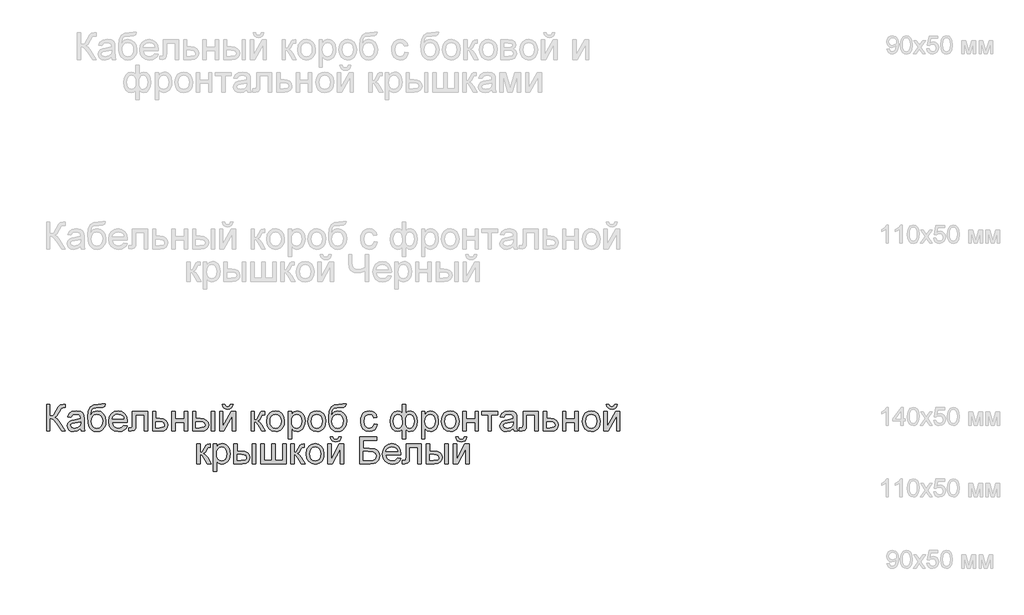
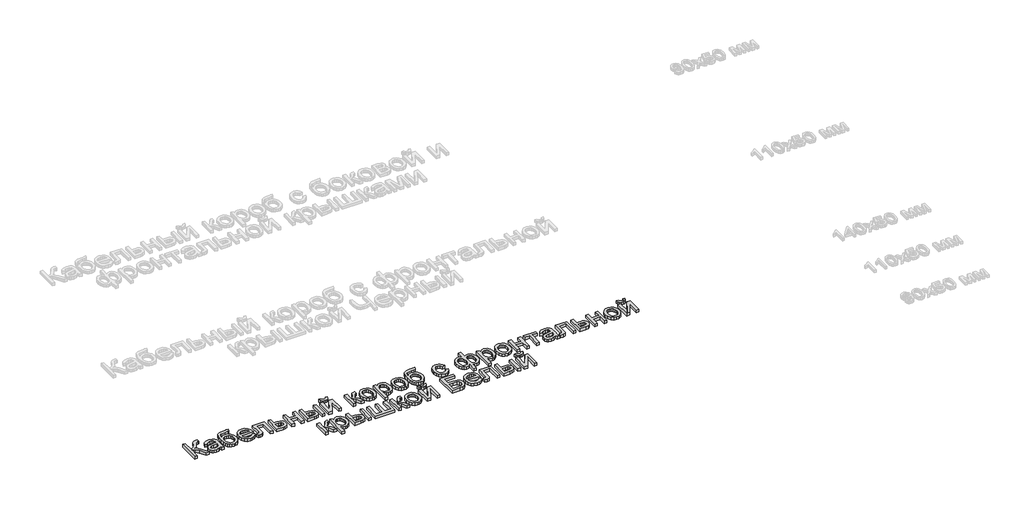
# One storey, part 25 of 48: 1 proxy.
"""IFC4 building model written with IfcOpenShell, lengths in millimetres."""

import ifcopenshell
import ifcopenshell.guid

model = None  # the IFC model being written
_history = None  # IfcOwnerHistory: only IFC2X3 demands one
_inside = {}  # id of a spatial element -> (the spatial element, [elements in it])
_under = {}  # id of a project, library or spatial element -> (it, [spatial elements below it])
_declared = {}  # id of a project -> (the project, [libraries it declares])
_typed = {}  # id of a type object -> (the type object, [elements of that type])
_made_of = {}  # id of a material, layer set ... -> (it, [elements and type objects made of it])


def new_model(schema):
    """Start an empty IFC model of exactly this schema.

    Asked for "IFC4X3", IfcOpenShell would pick the latest addendum, in which some entities
    have other attributes; the version numbers below select the first issue.
    IFC2X3 requires an IfcOwnerHistory on every rooted entity: one is made here for all.
    """
    global model, _history
    if schema == "IFC4X3":
        model = ifcopenshell.file(schema_version=(4, 3, 0, 0))
    else:
        model = ifcopenshell.file(schema=schema)
    _inside.clear()
    _under.clear()
    _declared.clear()
    _typed.clear()
    _made_of.clear()
    _history = None
    if model.schema == "IFC2X3":
        org = make("IfcOrganization", Name="unknown")
        user = make(
            "IfcPersonAndOrganization",
            ThePerson=make("IfcPerson", FamilyName="unknown"),
            TheOrganization=org,
        )
        app = make(
            "IfcApplication",
            ApplicationDeveloper=org,
            Version="unknown",
            ApplicationFullName="unknown",
            ApplicationIdentifier="unknown",
        )
        _history = make(
            "IfcOwnerHistory",
            OwningUser=user,
            OwningApplication=app,
            ChangeAction="ADDED",
            CreationDate=0,
        )
    return model


def make(cls, **values):
    """One entity of the class cls with the attributes given. An attribute that is None is left unset."""
    return model.create_entity(
        cls, **{name: value for name, value in values.items() if value is not None}
    )


def rooted(cls, **values):
    """An entity with a GlobalId (a new one), such as an element, a storey or a relation."""
    return make(cls, GlobalId=ifcopenshell.guid.new(), OwnerHistory=_history, **values)


def si_unit(unit_type, name, prefix=None):
    """IfcSIUnit, for example si_unit("LENGTHUNIT", "METRE", prefix="MILLI")."""
    return make("IfcSIUnit", UnitType=unit_type, Prefix=prefix, Name=name)


def assignment(units):
    """IfcUnitAssignment: the units of a project."""
    return None if units is None else make("IfcUnitAssignment", Units=units)


def point(xyz):
    """IfcCartesianPoint."""
    return None if xyz is None else make("IfcCartesianPoint", Coordinates=xyz)


def direction(xyz):
    """IfcDirection."""
    return None if xyz is None else make("IfcDirection", DirectionRatios=xyz)


def frame(location, z_axis=None, x_axis=None):
    """IfcAxis2Placement3D, a coordinate frame: its origin and axes. An axis left out is left unset."""
    return make(
        "IfcAxis2Placement3D",
        Location=point(location),
        Axis=direction(z_axis),
        RefDirection=direction(x_axis),
    )


def origin():
    """The frame at (0, 0, 0) with its axes left unset."""
    return frame((0.0, 0.0, 0.0))


def origin_with_axes():
    """The frame at (0, 0, 0) with the z axis (0, 0, 1) and the x axis (1, 0, 0) written out."""
    return frame((0.0, 0.0, 0.0), z_axis=(0.0, 0.0, 1.0), x_axis=(1.0, 0.0, 0.0))


def place(relative_to, where):
    """IfcLocalPlacement: puts the frame where relative to a parent placement (None: the world)."""
    return make(
        "IfcLocalPlacement", PlacementRelTo=relative_to, RelativePlacement=where
    )


def context(
    kind, dimensions, precision=None, world=None, true_north=None, identifier=None
):
    """IfcGeometricRepresentationContext, for example the 3D "Model" context."""
    return make(
        "IfcGeometricRepresentationContext",
        ContextIdentifier=identifier,
        ContextType=kind,
        CoordinateSpaceDimension=dimensions,
        Precision=precision,
        WorldCoordinateSystem=world,
        TrueNorth=true_north,
    )


def project(units=None, contexts=None):
    """IfcProject with its units and contexts."""
    return rooted(
        "IfcProject",
        Name="project",
        RepresentationContexts=contexts,
        UnitsInContext=assignment(units),
    )


def spatial(cls, under=None, at=None, **own):
    """A site, building, storey or space (cls), placed at a placement, below another one or the project."""
    s = rooted(cls, ObjectPlacement=at, **own)
    if under is not None:
        _under.setdefault(under.id(), (under, []))[1].append(s)
    return s


def polyline(points):
    """IfcPolyline through the points."""
    return make("IfcPolyline", Points=[point(p) for p in points])


def outline(outer, holes=None, kind="AREA"):
    """IfcArbitraryClosedProfileDef: a profile drawn as a closed curve; with holes, ...WithVoids."""
    if holes is None:
        return make("IfcArbitraryClosedProfileDef", ProfileType=kind, OuterCurve=outer)
    return make(
        "IfcArbitraryProfileDefWithVoids",
        ProfileType=kind,
        OuterCurve=outer,
        InnerCurves=holes,
    )


def extrude(swept, where, along, depth):
    """IfcExtrudedAreaSolid: the profile swept, set in the frame where, extruded along a direction by depth."""
    return make(
        "IfcExtrudedAreaSolid",
        SweptArea=swept,
        Position=where,
        ExtrudedDirection=direction(along),
        Depth=depth,
    )


def shape(context_of_items, identifier, shape_type, items):
    """IfcShapeRepresentation: the items that make up one representation, for example the "Body"."""
    return make(
        "IfcShapeRepresentation",
        ContextOfItems=context_of_items,
        RepresentationIdentifier=identifier,
        RepresentationType=shape_type,
        Items=items,
    )


def made_of(thing, what):
    """Note that an element or type object is made of a material, layer set ...; save() writes the relation."""
    if what is not None:
        _made_of.setdefault(what.id(), (what, []))[1].append(thing)
    return thing


def element(
    cls,
    number,
    at=None,
    inside=None,
    cuts=None,
    type_object=None,
    material=None,
    context=None,
    identifier="Body",
    shape_type=None,
    held_by="IfcProductDefinitionShape",
    body=None,
    shapes=None,
    **own,
):
    """One element of the class cls, such as IfcWall. Its Tag is "e" and its number.

    at: its placement. inside: the storey or other place that contains it. cuts: it is an
    opening in that element (IfcRelVoidsElement). A single representation is given by context,
    identifier, shape_type and body (its items); several are given by shapes. held_by: the class
    of the entity that holds the representations. save() writes the other relations.
    """
    e = rooted(cls, Tag="e%d" % number, ObjectPlacement=at, **own)
    if body is not None:
        shapes = [shape(context, identifier, shape_type, body)]
    if shapes is not None:
        e.Representation = make(held_by, Representations=shapes)
    if inside is not None:
        _inside.setdefault(inside.id(), (inside, []))[1].append(e)
    if cuts is not None:
        rooted(
            "IfcRelVoidsElement", RelatingBuildingElement=cuts, RelatedOpeningElement=e
        )
    if type_object is not None:
        _typed.setdefault(type_object.id(), (type_object, []))[1].append(e)
    return made_of(e, material)


def aggregate(whole, parts):
    """IfcRelAggregates: a whole, such as a stair, and the parts it consists of."""
    return rooted("IfcRelAggregates", RelatingObject=whole, RelatedObjects=parts)


def save(model, path):
    """Write the relations noted so far, then the file.

    IfcRelAggregates (storeys below a building ...), IfcRelContainedInSpatialStructure (elements
    in a storey), IfcRelDefinesByType, IfcRelAssociatesMaterial and IfcRelDeclares: one each for
    every whole, place, type object, material and project.
    """
    for whole, parts in _under.values():
        aggregate(whole, parts)
    for where, things in _inside.values():
        rooted(
            "IfcRelContainedInSpatialStructure",
            RelatedElements=things,
            RelatingStructure=where,
        )
    for kind, things in _typed.values():
        rooted("IfcRelDefinesByType", RelatedObjects=things, RelatingType=kind)
    for what, things in _made_of.values():
        rooted("IfcRelAssociatesMaterial", RelatedObjects=things, RelatingMaterial=what)
    for by, libraries in _declared.values():
        rooted("IfcRelDeclares", RelatingContext=by, RelatedDefinitions=libraries)
    model.write(path)


model = new_model("IFC4")

# Units and contexts
model_context = context("Model", 3, world=origin())
ifc_project = project(units=[si_unit("LENGTHUNIT", "METRE", prefix="MILLI")], contexts=[model_context])

# Site, building, storey
site = spatial("IfcSite", under=ifc_project)
building = spatial("IfcBuilding", under=site)
storey = spatial("IfcBuildingStorey", under=building, Name="Этаж 01", Elevation=0.0)

# Proxy
placement = place(None, origin())
element("IfcBuildingElementProxy", 1, Name="150 мм Arial", ObjectType="150 мм Arial", at=placement, inside=storey, context=model_context, shape_type="SweptSolid", body=[
    extrude(outline(polyline([(-4561.0026939, 1444.5958673), (-4542.1671357, 1444.5958673), (-4542.1671357, 1378.6714138), (-4529.415426, 1379.917614), (-4521.1058915, 1383.6562148), (-4506.4090058, 1408.8745256), (-4496.0163394, 1429.9357698), (-4484.2441156, 1440.3652244), (-4467.4135143, 1444.5958673), (-4455.0526792, 1444.3751381), (-4455.0526792, 1425.53958), (-4459.2097458, 1425.6499446), (-4463.3668123, 1425.7603092), (-4478.0820921, 1421.2353606), (-4489.2657048, 1401.8479795), (-4502.6014271, 1378.2299554), (-4515.6060557, 1370.4308571), (-4501.0655198, 1361.9143889), (-4486.727319, 1344.1640826), (-4455.0526792, 1293.9114021), (-4476.9048698, 1293.9114021), (-4503.686679, 1336.3649843), (-4522.5406313, 1358.5298745), (-4531.245639, 1363.0410275), (-4542.1671357, 1364.5447452), (-4542.1671357, 1293.9114021), (-4561.0026939, 1293.9114021), (-4561.0026939, 1444.5958673)])), origin_with_axes(), (0.0, 0.0, 1.0), 20.0),
    extrude(outline(polyline([(-4370.2926676, 1308.0380707), (-4388.5580086, 1295.2725655), (-4408.7363361, 1291.5569573), (-4424.4770869, 1293.7918404), (-4436.0883624, 1300.4964898), (-4443.2482657, 1310.677624), (-4445.6349002, 1323.3419617), (-4442.0296566, 1338.2411825), (-4432.5566952, 1349.0569132), (-4419.3681257, 1355.2373307), (-4403.0709533, 1358.0700221), (-4370.4030322, 1364.5447452), (-4370.2926676, 1368.7385999), (-4371.5894516, 1377.1447035), (-4375.4798037, 1382.6445393), (-4384.1802129, 1386.7280295), (-4396.3019246, 1388.0891929), (-4415.358212, 1384.4655552), (-4424.4448972, 1371.6080795), (-4443.2804554, 1373.9625242), (-4435.1318692, 1392.356624), (-4418.7243322, 1403.1355665), (-4393.8739034, 1406.924751), (-4371.0468256, 1403.5770249), (-4358.1525617, 1395.1709213), (-4352.3768144, 1382.3870219), (-4351.4571094, 1365.9059086), (-4351.4571094, 1342.4718255), (-4350.5006162, 1309.748722), (-4346.7482199, 1293.9114021), (-4365.583778, 1293.9114021), (-4370.2926676, 1308.0380707)]), holes=[polyline([(-4370.2926676, 1345.709187), (-4400.6797204, 1339.9334397), (-4416.8849222, 1336.8800191), (-4424.2241681, 1331.9136122), (-4426.799342, 1324.6663369), (-4421.1891416, 1314.4760056), (-4404.7264223, 1310.3925155), (-4385.670135, 1314.8990699), (-4373.3828763, 1325.8067711), (-4370.4030322, 1340.3748981), (-4370.2926676, 1345.709187)])]), origin_with_axes(), (0.0, 0.0, 1.0), 20.0),
    extrude(outline(polyline([(-4247.8615396, 1446.9503121), (-4231.3804262, 1446.9503121), (-4236.2364685, 1432.2534264), (-4245.8381886, 1426.9375316), (-4268.9043897, 1425.7603092), (-4299.9720242, 1421.4193016), (-4307.0997378, 1415.772313), (-4311.8914008, 1407.5133622), (-4315.9197087, 1382.9020567), (-4299.6041422, 1400.9282745), (-4289.6851239, 1405.4256319), (-4278.5796862, 1406.924751), (-4258.9807729, 1403.1125738), (-4243.0790736, 1391.6760423), (-4232.5392545, 1373.7371965), (-4229.0259814, 1350.4180766), (-4230.7688224, 1332.437844), (-4235.9973452, 1318.0076728), (-4252.5336409, 1298.4547447), (-4263.8276182, 1293.2814042), (-4278.5796862, 1291.5569573), (-4295.5804329, 1293.7780449), (-4308.3229455, 1300.4413075), (-4317.6993378, 1310.5672594), (-4324.6017238, 1323.1764148), (-4328.8507608, 1342.1637243), (-4330.2671065, 1371.4241385), (-4326.6940526, 1407.563946), (-4315.974891, 1429.604676), (-4297.8429071, 1440.8480695), (-4272.0313866, 1444.5958673), (-4251.0621129, 1445.0189316), (-4247.8615396, 1446.9503121)]), holes=[polyline([(-4247.8615396, 1351.0066877), (-4249.9032846, 1365.8277336), (-4256.0285199, 1377.6965265), (-4265.8693632, 1385.4910263), (-4279.0579328, 1388.0891929), (-4292.8075223, 1385.3438735), (-4303.0070506, 1377.1079153), (-4309.3254239, 1364.2826292), (-4311.4315483, 1347.7693262), (-4309.1046947, 1331.7618609), (-4302.1241339, 1320.0126297), (-4291.7314675, 1312.797544), (-4279.1682974, 1310.3925155), (-4266.5407479, 1313.1746231), (-4256.5435547, 1321.5209458), (-4250.0320433, 1334.4565965), (-4247.8615396, 1351.0066877)])]), origin_with_axes(), (0.0, 0.0, 1.0), 20.0),
    extrude(outline(polyline([(-4128.0055855, 1326.8736289), (-4109.5379094, 1324.5191841), (-4116.191975, 1310.6040476), (-4126.8099691, 1300.2021842), (-4141.1527683, 1293.718264), (-4158.9812495, 1291.5569573), (-4181.0817604, 1295.2863611), (-4198.0871056, 1306.4745722), (-4208.9304274, 1324.3950239), (-4212.544868, 1348.3211492), (-4208.8936392, 1373.0520163), (-4197.9399528, 1391.5472836), (-4181.1645338, 1403.0803842), (-4160.0481073, 1406.924751), (-4139.5892699, 1403.0895812), (-4123.2415137, 1391.5840718), (-4112.5223521, 1373.1255927), (-4108.9492982, 1348.4315138), (-4109.0596628, 1343.3547422), (-4193.7093099, 1343.3547422), (-4190.4489557, 1329.2556648), (-4182.8751851, 1318.8905896), (-4171.9444913, 1312.517034), (-4158.6133675, 1310.3925155), (-4140.1456914, 1314.3288528), (-4128.0055855, 1326.8736289)]), holes=[polyline([(-4193.7093099, 1362.1903004), (-4127.7848563, 1362.1903004), (-4130.3324392, 1372.1415084), (-4135.3264372, 1379.260025), (-4146.3077148, 1385.8819009), (-4160.1216837, 1388.0891929), (-4172.8182111, 1386.3279578), (-4183.3166435, 1381.0442527), (-4190.6145026, 1372.8082945), (-4193.7093099, 1362.1903004)])]), origin_with_axes(), (0.0, 0.0, 1.0), 20.0),
    extrude(outline(polyline([(-4080.695961, 1404.5703062), (-3995.9359493, 1404.5703062), (-3995.9359493, 1294.0217667), (-4014.7715074, 1294.0217667), (-4014.7715074, 1385.7347481), (-4061.8604028, 1385.7347481), (-4061.8604028, 1332.9436818), (-4063.1295957, 1308.5898937), (-4070.1009595, 1298.3075919), (-4086.5820729, 1293.9114021), (-4101.8859639, 1294.8678953), (-4101.8859639, 1312.7469602), (-4093.4614662, 1312.7469602), (-4084.944998, 1313.9057885), (-4081.5420895, 1317.5846085), (-4080.695961, 1334.0105396), (-4080.695961, 1404.5703062)])), origin_with_axes(), (0.0, 0.0, 1.0), 20.0),
    extrude(outline(polyline([(-3967.682612, 1404.5703062), (-3948.8470539, 1404.5703062), (-3948.8470539, 1364.5447452), (-3927.1420162, 1364.5447452), (-3908.3248521, 1362.1857019), (-3894.4005186, 1355.108572), (-3885.7920799, 1343.8835726), (-3882.9226003, 1329.0809208), (-3885.3644171, 1315.6026442), (-3892.6898673, 1304.2304921), (-3905.3863947, 1296.4911746), (-3923.9414428, 1293.9114021), (-3967.682612, 1293.9114021), (-3967.682612, 1404.5703062)]), holes=[polyline([(-3948.8470539, 1312.7469602), (-3931.2622945, 1312.7469602), (-3908.5455813, 1316.7016917), (-3903.4550142, 1321.7646677), (-3901.7581585, 1329.0441326), (-3906.7797477, 1340.6324155), (-3914.850159, 1344.4399941), (-3929.0182143, 1345.709187), (-3948.8470539, 1345.709187), (-3948.8470539, 1312.7469602)])]), origin_with_axes(), (0.0, 0.0, 1.0), 20.0),
    extrude(outline(polyline([(-3859.3781527, 1404.5703062), (-3840.5425945, 1404.5703062), (-3840.5425945, 1362.1903004), (-3791.0992544, 1362.1903004), (-3791.0992544, 1404.5703062), (-3772.2636962, 1404.5703062), (-3772.2636962, 1293.9114021), (-3791.0992544, 1293.9114021), (-3791.0992544, 1343.3547422), (-3840.5425945, 1343.3547422), (-3840.5425945, 1293.9114021), (-3859.3781527, 1293.9114021), (-3859.3781527, 1404.5703062)])), origin_with_axes(), (0.0, 0.0, 1.0), 20.0),
    extrude(outline(polyline([(-3640.4147891, 1404.5703062), (-3621.579231, 1404.5703062), (-3621.579231, 1293.9114021), (-3640.4147891, 1293.9114021), (-3640.4147891, 1404.5703062)])), origin_with_axes(), (0.0, 0.0, 1.0), 20.0),
    extrude(outline(polyline([(-3744.010359, 1404.5703062), (-3725.1748008, 1404.5703062), (-3725.1748008, 1364.5447452), (-3701.8878705, 1364.5447452), (-3681.7601269, 1362.1857019), (-3666.8471105, 1355.108572), (-3657.6178709, 1343.8835726), (-3654.5414577, 1329.0809208), (-3657.1212302, 1315.6026442), (-3664.8605477, 1304.2304921), (-3678.2652479, 1296.4911746), (-3697.8411686, 1293.9114021), (-3744.010359, 1293.9114021), (-3744.010359, 1404.5703062)]), holes=[polyline([(-3725.1748008, 1312.7469602), (-3705.8242079, 1312.7469602), (-3680.8450204, 1316.7016917), (-3675.244017, 1321.7646677), (-3673.3770159, 1329.0441326), (-3678.9136399, 1340.6324155), (-3687.7933916, 1344.4399941), (-3703.3593985, 1345.709187), (-3725.1748008, 1345.709187), (-3725.1748008, 1312.7469602)])]), origin_with_axes(), (0.0, 0.0, 1.0), 20.0),
    extrude(outline(polyline([(-3532.1103297, 1444.5958673), (-3517.9836611, 1444.5958673), (-3521.0232861, 1432.5339364), (-3527.1255287, 1423.6449877), (-3536.0144774, 1418.1681445), (-3547.4142207, 1416.3425301), (-3559.7842528, 1418.1543489), (-3569.3767759, 1423.5898054), (-3575.9342724, 1432.4649585), (-3579.1992251, 1444.5958673), (-3565.0725565, 1444.5958673), (-3559.7750558, 1433.9824718), (-3549.1064779, 1430.4691987), (-3537.4078305, 1433.8721072), (-3532.1103297, 1444.5958673)])), origin_with_axes(), (0.0, 0.0, 1.0), 20.0),
    extrude(outline(polyline([(-3593.3258937, 1404.5703062), (-3574.4903356, 1404.5703062), (-3574.4903356, 1320.1781766), (-3528.2107806, 1404.5703062), (-3503.8569925, 1404.5703062), (-3503.8569925, 1293.9114021), (-3522.6925507, 1293.9114021), (-3522.6925507, 1377.788497), (-3568.6778001, 1293.9114021), (-3593.3258937, 1293.9114021), (-3593.3258937, 1404.5703062)])), origin_with_axes(), (0.0, 0.0, 1.0), 20.0),
    extrude(outline(polyline([(-3416.7425361, 1404.5703062), (-3397.9069779, 1404.5703062), (-3397.9069779, 1357.4814109), (-3385.2886255, 1360.8659252), (-3374.9511414, 1380.5844002), (-3366.3610968, 1397.5989424), (-3358.7827277, 1403.1355665), (-3345.005547, 1404.5703062), (-3341.4003034, 1404.5703062), (-3341.4003034, 1385.6243835), (-3346.477075, 1385.7347481), (-3355.6741249, 1383.7481853), (-3362.148848, 1371.3505621), (-3369.7456112, 1357.9412634), (-3380.3957949, 1351.3745697), (-3368.5132065, 1344.044521), (-3356.8513472, 1328.6026742), (-3336.6914139, 1293.9114021), (-3358.102146, 1293.9114021), (-3377.8574092, 1327.8669103), (-3387.790223, 1342.2327022), (-3397.9069779, 1345.709187), (-3397.9069779, 1293.9114021), (-3416.7425361, 1293.9114021), (-3416.7425361, 1404.5703062)])), origin_with_axes(), (0.0, 0.0, 1.0), 20.0),
    extrude(outline(polyline([(-3329.6280796, 1349.2408542), (-3325.5537865, 1375.9214959), (-3313.3309072, 1394.6742806), (-3298.2293513, 1403.8621334), (-3280.1479513, 1406.924751), (-3260.3604984, 1403.1953473), (-3244.5553682, 1392.0071361), (-3234.1948915, 1374.2430343), (-3230.7413993, 1350.7859586), (-3232.2681096, 1331.7572624), (-3236.8482404, 1317.2719088), (-3244.3484346, 1306.4239885), (-3254.6353349, 1298.3075919), (-3266.8536157, 1293.244616), (-3280.1479513, 1291.5569573), (-3300.1745274, 1295.2725655), (-3315.9612635, 1306.4193899), (-3326.2113756, 1324.5559723), (-3329.6280796, 1349.2408542)]), holes=[polyline([(-3310.7925214, 1349.2776424), (-3308.6128206, 1332.2309104), (-3302.0737182, 1320.0862061), (-3292.2328748, 1312.8159381), (-3280.1479513, 1310.3925155), (-3268.11821, 1312.8297337), (-3258.2957607, 1320.1413884), (-3251.7566583, 1332.4470411), (-3249.5769575, 1349.8662536), (-3251.7704538, 1366.4163448), (-3258.350943, 1378.3955023), (-3268.1871879, 1385.6657702), (-3280.1479513, 1388.0891929), (-3292.2328748, 1385.6749673), (-3302.0737182, 1378.4322905), (-3308.6128206, 1366.3151773), (-3310.7925214, 1349.2776424)])]), origin_with_axes(), (0.0, 0.0, 1.0), 20.0),
    extrude(outline(polyline([(-3209.5513964, 1251.5313963), (-3209.5513964, 1404.5703062), (-3190.7158382, 1404.5703062), (-3190.7158382, 1386.1026301), (-3177.6928156, 1401.7192208), (-3160.1080562, 1406.924751), (-3147.3701421, 1405.1037351), (-3136.2325147, 1399.6406875), (-3127.1642236, 1390.8667019), (-3120.6343181, 1379.1128722), (-3115.3736056, 1350.0869828), (-3116.8589292, 1333.9783499), (-3121.3148998, 1319.5711713), (-3128.5989633, 1307.5966123), (-3138.5685654, 1298.7858385), (-3150.1798409, 1293.3641776), (-3162.3889246, 1291.5569573), (-3178.7780675, 1296.3946056), (-3190.7158382, 1308.6266819), (-3190.7158382, 1251.5313963), (-3209.5513964, 1251.5313963)]), holes=[polyline([(-3190.7158382, 1348.3579374), (-3188.6786917, 1331.4721538), (-3182.567252, 1319.6631418), (-3173.5495446, 1312.710172), (-3162.7935948, 1310.3925155), (-3151.862901, 1312.7929455), (-3142.6152674, 1319.9942356), (-3136.3106897, 1332.2355089), (-3134.2091638, 1349.755889), (-3136.2601059, 1366.549702), (-3142.4129323, 1378.524261), (-3151.4168441, 1385.6979599), (-3162.0210426, 1388.0891929), (-3172.6666278, 1385.5462086), (-3182.015429, 1377.9172557), (-3188.5407359, 1365.4414575), (-3190.7158382, 1348.3579374)])]), origin_with_axes(), (0.0, 0.0, 1.0), 20.0),
    extrude(outline(polyline([(-3098.8924922, 1349.2408542), (-3094.8181991, 1375.9214959), (-3082.5953198, 1394.6742806), (-3067.4937639, 1403.8621334), (-3049.4123639, 1406.924751), (-3029.6249111, 1403.1953473), (-3013.8197808, 1392.0071361), (-3003.4593042, 1374.2430343), (-3000.0058119, 1350.7859586), (-3001.5325222, 1331.7572624), (-3006.112653, 1317.2719088), (-3013.6128472, 1306.4239885), (-3023.8997475, 1298.3075919), (-3036.1180283, 1293.244616), (-3049.4123639, 1291.5569573), (-3069.43894, 1295.2725655), (-3085.2256761, 1306.4193899), (-3095.4757882, 1324.5559723), (-3098.8924922, 1349.2408542)]), holes=[polyline([(-3080.0569341, 1349.2776424), (-3077.8772333, 1332.2309104), (-3071.3381308, 1320.0862061), (-3061.4972874, 1312.8159381), (-3049.4123639, 1310.3925155), (-3037.3826226, 1312.8297337), (-3027.5601734, 1320.1413884), (-3021.0210709, 1332.4470411), (-3018.8413701, 1349.8662536), (-3021.0348665, 1366.4163448), (-3027.6153557, 1378.3955023), (-3037.4516005, 1385.6657702), (-3049.4123639, 1388.0891929), (-3061.4972874, 1385.6749673), (-3071.3381308, 1378.4322905), (-3077.8772333, 1366.3151773), (-3080.0569341, 1349.2776424)])]), origin_with_axes(), (0.0, 0.0, 1.0), 20.0),
    extrude(outline(polyline([(-2901.1191316, 1446.9503121), (-2884.6380182, 1446.9503121), (-2889.4940606, 1432.2534264), (-2899.0957806, 1426.9375316), (-2922.1619817, 1425.7603092), (-2953.2296162, 1421.4193016), (-2960.3573299, 1415.772313), (-2965.1489929, 1407.5133622), (-2969.1773007, 1382.9020567), (-2952.8617342, 1400.9282745), (-2942.9427159, 1405.4256319), (-2931.8372782, 1406.924751), (-2912.2383649, 1403.1125738), (-2896.3366657, 1391.6760423), (-2885.7968465, 1373.7371965), (-2882.2835735, 1350.4180766), (-2884.0264144, 1332.437844), (-2889.2549373, 1318.0076728), (-2905.791233, 1298.4547447), (-2917.0852102, 1293.2814042), (-2931.8372782, 1291.5569573), (-2948.8380249, 1293.7780449), (-2961.5805375, 1300.4413075), (-2970.9569299, 1310.5672594), (-2977.8593158, 1323.1764148), (-2982.1083529, 1342.1637243), (-2983.5246985, 1371.4241385), (-2979.9516447, 1407.563946), (-2969.232483, 1429.604676), (-2951.1004992, 1440.8480695), (-2925.2889787, 1444.5958673), (-2904.319705, 1445.0189316), (-2901.1191316, 1446.9503121)]), holes=[polyline([(-2901.1191316, 1351.0066877), (-2903.1608767, 1365.8277336), (-2909.2861119, 1377.6965265), (-2919.1269553, 1385.4910263), (-2932.3155248, 1388.0891929), (-2946.0651144, 1385.3438735), (-2956.2646427, 1377.1079153), (-2962.583016, 1364.2826292), (-2964.6891404, 1347.7693262), (-2962.3622868, 1331.7618609), (-2955.3817259, 1320.0126297), (-2944.9890595, 1312.797544), (-2932.4258894, 1310.3925155), (-2919.7983399, 1313.1746231), (-2909.8011467, 1321.5209458), (-2903.2896354, 1334.4565965), (-2901.1191316, 1351.0066877)])]), origin_with_axes(), (0.0, 0.0, 1.0), 20.0),
    extrude(outline(polyline([(-2729.2446635, 1333.9369632), (-2710.4091053, 1331.5825184), (-2715.6606208, 1314.830092), (-2725.5290553, 1302.1703529), (-2739.0855068, 1294.2103062), (-2755.4010733, 1291.5569573), (-2775.4368465, 1295.2587699), (-2791.104021, 1306.3642076), (-2801.2161773, 1324.3858269), (-2804.5868961, 1348.836184), (-2803.1475578, 1365.5978074), (-2798.8295429, 1380.1245477), (-2791.5638735, 1391.8553848), (-2781.2815717, 1400.2292987), (-2768.9805175, 1405.2508879), (-2755.6585907, 1406.924751), (-2739.7430959, 1404.6254885), (-2727.0189774, 1397.7277011), (-2717.8909054, 1386.5992708), (-2712.7635501, 1371.6080795), (-2731.5991082, 1369.2536347), (-2740.3363056, 1383.3619092), (-2755.5114379, 1388.0891929), (-2767.6837334, 1385.7623392), (-2777.3452343, 1378.7817784), (-2783.649812, 1366.7704312), (-2785.7513379, 1349.3512188), (-2783.6957973, 1331.6974815), (-2777.5291753, 1319.6447477), (-2768.0424184, 1312.7055735), (-2756.0264727, 1310.3925155), (-2746.2730013, 1311.8364523), (-2738.2761665, 1316.1682628), (-2732.4590324, 1323.4983116), (-2729.2446635, 1333.9369632)])), origin_with_axes(), (0.0, 0.0, 1.0), 20.0),
    extrude(outline(polyline([(-2571.4968639, 1444.5958673), (-2552.6613058, 1444.5958673), (-2552.6613058, 1393.9385166), (-2540.6867468, 1403.7057836), (-2526.6520487, 1406.924751), (-2510.1663368, 1402.8320638), (-2497.4974006, 1390.5540022), (-2489.4269893, 1372.067932), (-2486.7368523, 1349.3512188), (-2489.633923, 1325.9401283), (-2498.3251351, 1307.5046418), (-2511.3205666, 1295.5438785), (-2527.1302953, 1291.5569573), (-2538.6450018, 1293.3963673), (-2552.6613058, 1303.4395458), (-2552.6613058, 1251.5313963), (-2571.4968639, 1251.5313963), (-2571.4968639, 1303.4395458), (-2583.5266052, 1294.5368015), (-2597.7636384, 1291.5569573), (-2613.545776, 1295.364536), (-2627.194198, 1306.7872719), (-2636.6303712, 1325.3009333), (-2639.7757622, 1350.3812884), (-2636.9292753, 1372.4634051), (-2628.3898145, 1390.6643668), (-2615.0402966, 1402.859655), (-2597.7636384, 1406.924751), (-2583.1771173, 1403.7057836), (-2571.4968639, 1393.9385166), (-2571.4968639, 1444.5958673)]), holes=[polyline([(-2620.9402041, 1350.7859586), (-2619.0548089, 1332.3090853), (-2613.3986232, 1319.8470828), (-2604.9465344, 1312.7561573), (-2594.6734296, 1310.3925155), (-2584.4509087, 1312.7423617), (-2577.1806408, 1319.7919005), (-2572.8350347, 1331.5411317), (-2571.3864993, 1347.9900554), (-2572.9086111, 1365.533428), (-2577.4749464, 1378.0644085), (-2585.1130963, 1385.5829968), (-2595.850652, 1388.0891929), (-2605.9306187, 1385.6427776), (-2613.9504462, 1378.3035318), (-2619.1927646, 1366.5313079), (-2620.9402041, 1350.7859586)]), polyline([(-2552.7716704, 1348.9097604), (-2551.2035734, 1329.8396775), (-2546.4992824, 1318.2467961), (-2539.4313495, 1312.3560856), (-2530.7723271, 1310.3925155), (-2521.0924321, 1312.8067411), (-2512.9484444, 1320.0494179), (-2507.4164189, 1332.3780632), (-2505.5724104, 1350.0501946), (-2507.2738646, 1366.8072194), (-2512.3782273, 1378.6714138), (-2520.1497345, 1385.7347481), (-2529.8526221, 1388.0891929), (-2539.8452168, 1385.6381791), (-2547.0143172, 1378.2851377), (-2551.3323321, 1366.0392658), (-2552.7716704, 1348.9097604)])]), origin_with_axes(), (0.0, 0.0, 1.0), 20.0),
    extrude(outline(polyline([(-2463.1924046, 1251.5313963), (-2463.1924046, 1404.5703062), (-2444.3568464, 1404.5703062), (-2444.3568464, 1386.1026301), (-2431.3338238, 1401.7192208), (-2413.7490644, 1406.924751), (-2401.0111503, 1405.1037351), (-2389.8735229, 1399.6406875), (-2380.8052317, 1390.8667019), (-2374.2753263, 1379.1128722), (-2369.0146138, 1350.0869828), (-2370.4999374, 1333.9783499), (-2374.955908, 1319.5711713), (-2382.2399715, 1307.5966123), (-2392.2095736, 1298.7858385), (-2403.8208491, 1293.3641776), (-2416.0299328, 1291.5569573), (-2432.4190757, 1296.3946056), (-2444.3568464, 1308.6266819), (-2444.3568464, 1251.5313963), (-2463.1924046, 1251.5313963)]), holes=[polyline([(-2444.3568464, 1348.3579374), (-2442.3196999, 1331.4721538), (-2436.2082602, 1319.6631418), (-2427.1905528, 1312.710172), (-2416.434603, 1310.3925155), (-2405.5039092, 1312.7929455), (-2396.2562755, 1319.9942356), (-2389.9516978, 1332.2355089), (-2387.850172, 1349.755889), (-2389.9011141, 1366.549702), (-2396.0539404, 1378.524261), (-2405.0578523, 1385.6979599), (-2415.6620508, 1388.0891929), (-2426.307636, 1385.5462086), (-2435.6564372, 1377.9172557), (-2442.1817441, 1365.4414575), (-2444.3568464, 1348.3579374)])]), origin_with_axes(), (0.0, 0.0, 1.0), 20.0),
    extrude(outline(polyline([(-2352.5335004, 1349.2408542), (-2348.4592073, 1375.9214959), (-2336.236328, 1394.6742806), (-2321.1347721, 1403.8621334), (-2303.0533721, 1406.924751), (-2283.2659192, 1403.1953473), (-2267.460789, 1392.0071361), (-2257.1003123, 1374.2430343), (-2253.6468201, 1350.7859586), (-2255.1735304, 1331.7572624), (-2259.7536612, 1317.2719088), (-2267.2538554, 1306.4239885), (-2277.5407557, 1298.3075919), (-2289.7590365, 1293.244616), (-2303.0533721, 1291.5569573), (-2323.0799482, 1295.2725655), (-2338.8666843, 1306.4193899), (-2349.1167964, 1324.5559723), (-2352.5335004, 1349.2408542)]), holes=[polyline([(-2333.6979423, 1349.2776424), (-2331.5182414, 1332.2309104), (-2324.979139, 1320.0862061), (-2315.1382956, 1312.8159381), (-2303.0533721, 1310.3925155), (-2291.0236308, 1312.8297337), (-2281.2011815, 1320.1413884), (-2274.6620791, 1332.4470411), (-2272.4823783, 1349.8662536), (-2274.6758747, 1366.4163448), (-2281.2563638, 1378.3955023), (-2291.0926087, 1385.6657702), (-2303.0533721, 1388.0891929), (-2315.1382956, 1385.6749673), (-2324.979139, 1378.4322905), (-2331.5182414, 1366.3151773), (-2333.6979423, 1349.2776424)])]), origin_with_axes(), (0.0, 0.0, 1.0), 20.0),
    extrude(outline(polyline([(-2232.4568172, 1404.5703062), (-2213.621259, 1404.5703062), (-2213.621259, 1362.1903004), (-2164.1779189, 1362.1903004), (-2164.1779189, 1404.5703062), (-2145.3423607, 1404.5703062), (-2145.3423607, 1293.9114021), (-2164.1779189, 1293.9114021), (-2164.1779189, 1343.3547422), (-2213.621259, 1343.3547422), (-2213.621259, 1293.9114021), (-2232.4568172, 1293.9114021), (-2232.4568172, 1404.5703062)])), origin_with_axes(), (0.0, 0.0, 1.0), 20.0),
    extrude(outline(polyline([(-2126.5068026, 1404.5703062), (-2037.0379013, 1404.5703062), (-2037.0379013, 1385.7347481), (-2072.3545729, 1385.7347481), (-2072.3545729, 1293.9114021), (-2091.190131, 1293.9114021), (-2091.190131, 1385.7347481), (-2126.5068026, 1385.7347481), (-2126.5068026, 1404.5703062)])), origin_with_axes(), (0.0, 0.0, 1.0), 20.0),
    extrude(outline(polyline([(-1949.9234449, 1308.0380707), (-1968.188786, 1295.2725655), (-1988.3671134, 1291.5569573), (-2004.1078643, 1293.7918404), (-2015.7191397, 1300.4964898), (-2022.8790431, 1310.677624), (-2025.2656775, 1323.3419617), (-2021.660434, 1338.2411825), (-2012.1874726, 1349.0569132), (-1998.998903, 1355.2373307), (-1982.7017307, 1358.0700221), (-1950.0338095, 1364.5447452), (-1949.9234449, 1368.7385999), (-1951.2202289, 1377.1447035), (-1955.110581, 1382.6445393), (-1963.8109902, 1386.7280295), (-1975.932702, 1388.0891929), (-1994.9889893, 1384.4655552), (-2004.0756746, 1371.6080795), (-2022.9112327, 1373.9625242), (-2014.7626465, 1392.356624), (-1998.3551096, 1403.1355665), (-1973.5046808, 1406.924751), (-1950.677603, 1403.5770249), (-1937.7833391, 1395.1709213), (-1932.0075917, 1382.3870219), (-1931.0878867, 1365.9059086), (-1931.0878867, 1342.4718255), (-1930.1313936, 1309.748722), (-1926.3789972, 1293.9114021), (-1945.2145554, 1293.9114021), (-1949.9234449, 1308.0380707)]), holes=[polyline([(-1949.9234449, 1345.709187), (-1980.3104977, 1339.9334397), (-1996.5156996, 1336.8800191), (-2003.8549454, 1331.9136122), (-2006.4301194, 1324.6663369), (-2000.8199189, 1314.4760056), (-1984.3571996, 1310.3925155), (-1965.3009123, 1314.8990699), (-1953.0136537, 1325.8067711), (-1950.0338095, 1340.3748981), (-1949.9234449, 1345.709187)])]), origin_with_axes(), (0.0, 0.0, 1.0), 20.0),
    extrude(outline(polyline([(-1895.7712152, 1404.5703062), (-1811.0112035, 1404.5703062), (-1811.0112035, 1294.0217667), (-1829.8467617, 1294.0217667), (-1829.8467617, 1385.7347481), (-1876.935657, 1385.7347481), (-1876.935657, 1332.9436818), (-1878.2048499, 1308.5898937), (-1885.1762137, 1298.3075919), (-1901.6573271, 1293.9114021), (-1916.9612181, 1294.8678953), (-1916.9612181, 1312.7469602), (-1908.5367204, 1312.7469602), (-1900.0202522, 1313.9057885), (-1896.6173438, 1317.5846085), (-1895.7712152, 1334.0105396), (-1895.7712152, 1404.5703062)])), origin_with_axes(), (0.0, 0.0, 1.0), 20.0),
    extrude(outline(polyline([(-1782.7578663, 1404.5703062), (-1763.9223081, 1404.5703062), (-1763.9223081, 1364.5447452), (-1742.2172704, 1364.5447452), (-1723.4001064, 1362.1857019), (-1709.4757728, 1355.108572), (-1700.8673342, 1343.8835726), (-1697.9978546, 1329.0809208), (-1700.4396713, 1315.6026442), (-1707.7651216, 1304.2304921), (-1720.4616489, 1296.4911746), (-1739.0166971, 1293.9114021), (-1782.7578663, 1293.9114021), (-1782.7578663, 1404.5703062)]), holes=[polyline([(-1763.9223081, 1312.7469602), (-1746.3375488, 1312.7469602), (-1723.6208356, 1316.7016917), (-1718.5302685, 1321.7646677), (-1716.8334127, 1329.0441326), (-1721.855002, 1340.6324155), (-1729.9254133, 1344.4399941), (-1744.0934686, 1345.709187), (-1763.9223081, 1345.709187), (-1763.9223081, 1312.7469602)])]), origin_with_axes(), (0.0, 0.0, 1.0), 20.0),
    extrude(outline(polyline([(-1674.4534069, 1404.5703062), (-1655.6178488, 1404.5703062), (-1655.6178488, 1362.1903004), (-1606.1745086, 1362.1903004), (-1606.1745086, 1404.5703062), (-1587.3389504, 1404.5703062), (-1587.3389504, 1293.9114021), (-1606.1745086, 1293.9114021), (-1606.1745086, 1343.3547422), (-1655.6178488, 1343.3547422), (-1655.6178488, 1293.9114021), (-1674.4534069, 1293.9114021), (-1674.4534069, 1404.5703062)])), origin_with_axes(), (0.0, 0.0, 1.0), 20.0),
    extrude(outline(polyline([(-1563.7945028, 1349.2408542), (-1559.7202097, 1375.9214959), (-1547.4973304, 1394.6742806), (-1532.3957745, 1403.8621334), (-1514.3143744, 1406.924751), (-1494.5269216, 1403.1953473), (-1478.7217914, 1392.0071361), (-1468.3613147, 1374.2430343), (-1464.9078225, 1350.7859586), (-1466.4345327, 1331.7572624), (-1471.0146636, 1317.2719088), (-1478.5148577, 1306.4239885), (-1488.801758, 1298.3075919), (-1501.0200388, 1293.244616), (-1514.3143744, 1291.5569573), (-1534.3409505, 1295.2725655), (-1550.1276866, 1306.4193899), (-1560.3777987, 1324.5559723), (-1563.7945028, 1349.2408542)]), holes=[polyline([(-1544.9589446, 1349.2776424), (-1542.7792438, 1332.2309104), (-1536.2401413, 1320.0862061), (-1526.3992979, 1312.8159381), (-1514.3143744, 1310.3925155), (-1502.2846332, 1312.8297337), (-1492.4621839, 1320.1413884), (-1485.9230814, 1332.4470411), (-1483.7433806, 1349.8662536), (-1485.936877, 1366.4163448), (-1492.5173662, 1378.3955023), (-1502.353611, 1385.6657702), (-1514.3143744, 1388.0891929), (-1526.3992979, 1385.6749673), (-1536.2401413, 1378.4322905), (-1542.7792438, 1366.3151773), (-1544.9589446, 1349.2776424)])]), origin_with_axes(), (0.0, 0.0, 1.0), 20.0),
    extrude(outline(polyline([(-1443.7178195, 1404.5703062), (-1424.8822614, 1404.5703062), (-1424.8822614, 1320.1781766), (-1378.6027064, 1404.5703062), (-1354.2489183, 1404.5703062), (-1354.2489183, 1293.9114021), (-1373.0844765, 1293.9114021), (-1373.0844765, 1377.788497), (-1419.0697259, 1293.9114021), (-1443.7178195, 1293.9114021), (-1443.7178195, 1404.5703062)])), origin_with_axes(), (0.0, 0.0, 1.0), 20.0),
    extrude(outline(polyline([(-1382.5022555, 1444.5958673), (-1368.3755869, 1444.5958673), (-1371.4152119, 1432.5339364), (-1377.5174545, 1423.6449877), (-1386.4064032, 1418.1681445), (-1397.8061465, 1416.3425301), (-1410.1761786, 1418.1543489), (-1419.7687016, 1423.5898054), (-1426.3261982, 1432.4649585), (-1429.5911509, 1444.5958673), (-1415.4644823, 1444.5958673), (-1410.1669816, 1433.9824718), (-1399.4984037, 1430.4691987), (-1387.7997563, 1433.8721072), (-1382.5022555, 1444.5958673)])), origin_with_axes(), (0.0, 0.0, 1.0), 20.0),
    extrude(outline(polyline([(-3720.4659113, 1221.6080795), (-3701.6303531, 1221.6080795), (-3701.6303531, 1174.5191841), (-3689.0120007, 1177.9036985), (-3678.6745166, 1197.6221734), (-3670.084472, 1214.6367157), (-3662.5061029, 1220.1733397), (-3648.7289222, 1221.6080795), (-3645.1236787, 1221.6080795), (-3645.1236787, 1202.6621567), (-3650.2004502, 1202.7725213), (-3659.3975001, 1200.7859586), (-3665.8722232, 1188.3883353), (-3673.4689864, 1174.9790366), (-3684.1191702, 1168.412343), (-3672.2365817, 1161.0822942), (-3660.5747225, 1145.6404475), (-3640.4147891, 1110.9491753), (-3661.8255212, 1110.9491753), (-3681.5807844, 1144.9046835), (-3691.5135983, 1159.2704754), (-3701.6303531, 1162.7469602), (-3701.6303531, 1110.9491753), (-3720.4659113, 1110.9491753), (-3720.4659113, 1221.6080795)])), origin_with_axes(), (0.0, 0.0, 1.0), 20.0),
    extrude(outline(polyline([(-3628.6425653, 1068.5691695), (-3628.6425653, 1221.6080795), (-3609.8070071, 1221.6080795), (-3609.8070071, 1203.1404033), (-3596.7839845, 1218.756994), (-3579.1992251, 1223.9625242), (-3566.461311, 1222.1415084), (-3555.3236836, 1216.6784607), (-3546.2553925, 1207.9044752), (-3539.725487, 1196.1506454), (-3534.4647745, 1167.124756), (-3535.9500981, 1151.0161231), (-3540.4060687, 1136.6089445), (-3547.6901322, 1124.6343855), (-3557.6597343, 1115.8236118), (-3569.2710098, 1110.4019509), (-3581.4800935, 1108.5947306), (-3597.8692364, 1113.4323788), (-3609.8070071, 1125.6644551), (-3609.8070071, 1068.5691695), (-3628.6425653, 1068.5691695)]), holes=[polyline([(-3609.8070071, 1165.3957106), (-3607.7698606, 1148.509927), (-3601.6584209, 1136.700915), (-3592.6407135, 1129.7479453), (-3581.8847637, 1127.4302887), (-3570.9540699, 1129.8307187), (-3561.7064363, 1137.0320088), (-3555.4018586, 1149.2732822), (-3553.3003327, 1166.7936622), (-3555.3512748, 1183.5874753), (-3561.5041012, 1195.5620342), (-3570.508013, 1202.7357331), (-3581.1122115, 1205.1269661), (-3591.7577967, 1202.5839818), (-3601.1065979, 1194.9550289), (-3607.6319048, 1182.4792308), (-3609.8070071, 1165.3957106)])]), origin_with_axes(), (0.0, 0.0, 1.0), 20.0),
    extrude(outline(polyline([(-3409.6792018, 1221.6080795), (-3390.8436436, 1221.6080795), (-3390.8436436, 1110.9491753), (-3409.6792018, 1110.9491753), (-3409.6792018, 1221.6080795)])), origin_with_axes(), (0.0, 0.0, 1.0), 20.0),
    extrude(outline(polyline([(-3513.2747716, 1221.6080795), (-3494.4392134, 1221.6080795), (-3494.4392134, 1181.5825184), (-3471.1522831, 1181.5825184), (-3451.0245395, 1179.2234751), (-3436.1115231, 1172.1463452), (-3426.8822836, 1160.9213458), (-3423.8058704, 1146.1186941), (-3426.3856429, 1132.6404175), (-3434.1249603, 1121.2682653), (-3447.5296605, 1113.5289478), (-3467.1055812, 1110.9491753), (-3513.2747716, 1110.9491753), (-3513.2747716, 1221.6080795)]), holes=[polyline([(-3494.4392134, 1129.7847335), (-3475.0886205, 1129.7847335), (-3450.109433, 1133.7394649), (-3444.5084296, 1138.8024409), (-3442.6414285, 1146.0819059), (-3448.1780525, 1157.6701887), (-3457.0578042, 1161.4777674), (-3472.6238111, 1162.7469602), (-3494.4392134, 1162.7469602), (-3494.4392134, 1129.7847335)])]), origin_with_axes(), (0.0, 0.0, 1.0), 20.0),
    extrude(outline(polyline([(-3362.5903064, 1221.6080795), (-3343.7547482, 1221.6080795), (-3343.7547482, 1129.7847335), (-3301.3747424, 1129.7847335), (-3301.3747424, 1221.6080795), (-3282.5391842, 1221.6080795), (-3282.5391842, 1129.7847335), (-3240.1591784, 1129.7847335), (-3240.1591784, 1221.6080795), (-3221.3236202, 1221.6080795), (-3221.3236202, 1110.9491753), (-3362.5903064, 1110.9491753), (-3362.5903064, 1221.6080795)])), origin_with_axes(), (0.0, 0.0, 1.0), 20.0),
    extrude(outline(polyline([(-3195.4247278, 1221.6080795), (-3176.5891696, 1221.6080795), (-3176.5891696, 1174.5191841), (-3163.9708172, 1177.9036985), (-3153.6333331, 1197.6221734), (-3145.0432885, 1214.6367157), (-3137.4649194, 1220.1733397), (-3123.6877387, 1221.6080795), (-3120.0824952, 1221.6080795), (-3120.0824952, 1202.6621567), (-3125.1592667, 1202.7725213), (-3134.3563166, 1200.7859586), (-3140.8310397, 1188.3883353), (-3148.4278029, 1174.9790366), (-3159.0779866, 1168.412343), (-3147.1953982, 1161.0822942), (-3135.5335389, 1145.6404475), (-3115.3736056, 1110.9491753), (-3136.7843377, 1110.9491753), (-3156.5396009, 1144.9046835), (-3166.4724147, 1159.2704754), (-3176.5891696, 1162.7469602), (-3176.5891696, 1110.9491753), (-3195.4247278, 1110.9491753), (-3195.4247278, 1221.6080795)])), origin_with_axes(), (0.0, 0.0, 1.0), 20.0),
    extrude(outline(polyline([(-3108.3102713, 1166.2786274), (-3104.2359782, 1192.9592691), (-3092.0130989, 1211.7120538), (-3076.911543, 1220.8999066), (-3058.830143, 1223.9625242), (-3039.0426901, 1220.2331205), (-3023.2375599, 1209.0449093), (-3012.8770832, 1191.2808075), (-3009.423591, 1167.8237318), (-3010.9503013, 1148.7950356), (-3015.5304321, 1134.309682), (-3023.0306263, 1123.4617617), (-3033.3175266, 1115.3453652), (-3045.5358074, 1110.2823892), (-3058.830143, 1108.5947306), (-3078.8567191, 1112.3103387), (-3094.6434552, 1123.4571632), (-3104.8935673, 1141.5937455), (-3108.3102713, 1166.2786274)]), holes=[polyline([(-3089.4747132, 1166.3154156), (-3087.2950123, 1149.2686837), (-3080.7559099, 1137.1239793), (-3070.9150665, 1129.8537114), (-3058.830143, 1127.4302887), (-3046.8004017, 1129.8675069), (-3036.9779524, 1137.1791616), (-3030.43885, 1149.4848143), (-3028.2591492, 1166.9040268), (-3030.4526456, 1183.4541181), (-3037.0331347, 1195.4332755), (-3046.8693796, 1202.7035435), (-3058.830143, 1205.1269661), (-3070.9150665, 1202.7127405), (-3080.7559099, 1195.4700637), (-3087.2950123, 1183.3529505), (-3089.4747132, 1166.3154156)])]), origin_with_axes(), (0.0, 0.0, 1.0), 20.0),
    extrude(outline(polyline([(-2988.2335881, 1221.6080795), (-2969.3980299, 1221.6080795), (-2969.3980299, 1137.2159498), (-2923.1184749, 1221.6080795), (-2898.7646869, 1221.6080795), (-2898.7646869, 1110.9491753), (-2917.600245, 1110.9491753), (-2917.600245, 1194.8262702), (-2963.5854944, 1110.9491753), (-2988.2335881, 1110.9491753), (-2988.2335881, 1221.6080795)])), origin_with_axes(), (0.0, 0.0, 1.0), 20.0),
    extrude(outline(polyline([(-2927.0180241, 1261.6336406), (-2912.8913555, 1261.6336406), (-2915.9309805, 1249.5717096), (-2922.033223, 1240.6827609), (-2930.9221718, 1235.2059177), (-2942.3219151, 1233.3803033), (-2954.6919472, 1235.1921221), (-2964.2844702, 1240.6275786), (-2970.8419668, 1249.5027318), (-2974.1069195, 1261.6336406), (-2959.9802508, 1261.6336406), (-2954.6827501, 1251.020245), (-2944.0141723, 1247.5069719), (-2932.3155248, 1250.9098804), (-2927.0180241, 1261.6336406)])), origin_with_axes(), (0.0, 0.0, 1.0), 20.0),
    extrude(outline(polyline([(-2809.2957856, 1261.6336406), (-2715.1179949, 1261.6336406), (-2715.1179949, 1242.7980824), (-2790.4602275, 1242.7980824), (-2790.4602275, 1198.0636318), (-2755.1803441, 1198.0636318), (-2724.0943155, 1194.237659), (-2713.6924521, 1188.7102321), (-2705.5898512, 1179.7798966), (-2700.3751239, 1168.2835843), (-2698.6368815, 1155.0582266), (-2703.5848943, 1133.5923121), (-2718.3553564, 1117.2767456), (-2731.6266994, 1112.5310679), (-2751.7958298, 1110.9491753), (-2809.2957856, 1110.9491753), (-2809.2957856, 1261.6336406)]), holes=[polyline([(-2790.4602275, 1129.7847335), (-2750.1035726, 1129.7847335), (-2735.8389482, 1131.3390349), (-2725.6394199, 1136.0019392), (-2719.5141847, 1143.7734463), (-2717.4724396, 1154.6535564), (-2722.144541, 1169.4056244), (-2735.1491695, 1177.2782991), (-2763.5312654, 1179.2280736), (-2790.4602275, 1179.2280736), (-2790.4602275, 1129.7847335)])]), origin_with_axes(), (0.0, 0.0, 1.0), 20.0),
    extrude(outline(polyline([(-2597.6164856, 1143.9114021), (-2579.1488094, 1141.5569573), (-2585.802875, 1127.6418209), (-2596.4208691, 1117.2399574), (-2610.7636684, 1110.7560373), (-2628.5921496, 1108.5947306), (-2650.6926605, 1112.3241343), (-2667.6980057, 1123.5123455), (-2678.5413275, 1141.4327972), (-2682.1557681, 1165.3589224), (-2678.5045393, 1190.0897895), (-2667.5508529, 1208.5850568), (-2650.7754339, 1220.1181574), (-2629.6590074, 1223.9625242), (-2609.2001699, 1220.1273544), (-2592.8524138, 1208.621845), (-2582.1332521, 1190.1633659), (-2578.5601982, 1165.469287), (-2578.6705628, 1160.3925155), (-2663.3202099, 1160.3925155), (-2660.0598558, 1146.293438), (-2652.4860852, 1135.9283628), (-2641.5553914, 1129.5548072), (-2628.2242676, 1127.4302887), (-2609.7565914, 1131.3666261), (-2597.6164856, 1143.9114021)]), holes=[polyline([(-2663.3202099, 1179.2280736), (-2597.3957564, 1179.2280736), (-2599.9433392, 1189.1792816), (-2604.9373373, 1196.2977982), (-2615.9186149, 1202.9196741), (-2629.7325838, 1205.1269661), (-2642.4291111, 1203.365731), (-2652.9275436, 1198.0820259), (-2660.2254027, 1189.8460677), (-2663.3202099, 1179.2280736)])]), origin_with_axes(), (0.0, 0.0, 1.0), 20.0),
    extrude(outline(polyline([(-2550.306861, 1221.6080795), (-2465.5468493, 1221.6080795), (-2465.5468493, 1111.0595399), (-2484.3824075, 1111.0595399), (-2484.3824075, 1202.7725213), (-2531.4713029, 1202.7725213), (-2531.4713029, 1149.981455), (-2532.7404958, 1125.6276669), (-2539.7118596, 1115.3453652), (-2556.1929729, 1110.9491753), (-2571.4968639, 1111.9056685), (-2571.4968639, 1129.7847335), (-2563.0723663, 1129.7847335), (-2554.5558981, 1130.9435618), (-2551.1529896, 1134.6223817), (-2550.306861, 1151.0483128), (-2550.306861, 1221.6080795)])), origin_with_axes(), (0.0, 0.0, 1.0), 20.0),
    extrude(outline(polyline([(-2333.6979423, 1221.6080795), (-2314.8623841, 1221.6080795), (-2314.8623841, 1110.9491753), (-2333.6979423, 1110.9491753), (-2333.6979423, 1221.6080795)])), origin_with_axes(), (0.0, 0.0, 1.0), 20.0),
    extrude(outline(polyline([(-2437.2935121, 1221.6080795), (-2418.4579539, 1221.6080795), (-2418.4579539, 1181.5825184), (-2395.1710237, 1181.5825184), (-2375.04328, 1179.2234751), (-2360.1302636, 1172.1463452), (-2350.9010241, 1160.9213458), (-2347.8246109, 1146.1186941), (-2350.4043834, 1132.6404175), (-2358.1437008, 1121.2682653), (-2371.548401, 1113.5289478), (-2391.1243217, 1110.9491753), (-2437.2935121, 1110.9491753), (-2437.2935121, 1221.6080795)]), holes=[polyline([(-2418.4579539, 1129.7847335), (-2399.107361, 1129.7847335), (-2374.1281735, 1133.7394649), (-2368.5271702, 1138.8024409), (-2366.660169, 1146.0819059), (-2372.1967931, 1157.6701887), (-2381.0765447, 1161.4777674), (-2396.6425516, 1162.7469602), (-2418.4579539, 1162.7469602), (-2418.4579539, 1129.7847335)])]), origin_with_axes(), (0.0, 0.0, 1.0), 20.0),
    extrude(outline(polyline([(-2286.6090469, 1221.6080795), (-2267.7734887, 1221.6080795), (-2267.7734887, 1137.2159498), (-2221.4939337, 1221.6080795), (-2197.1401457, 1221.6080795), (-2197.1401457, 1110.9491753), (-2215.9757038, 1110.9491753), (-2215.9757038, 1194.8262702), (-2261.9609532, 1110.9491753), (-2286.6090469, 1110.9491753), (-2286.6090469, 1221.6080795)])), origin_with_axes(), (0.0, 0.0, 1.0), 20.0),
    extrude(outline(polyline([(-2225.3934829, 1261.6336406), (-2211.2668143, 1261.6336406), (-2214.3064393, 1249.5717096), (-2220.4086818, 1240.6827609), (-2229.2976306, 1235.2059177), (-2240.6973739, 1233.3803033), (-2253.067406, 1235.1921221), (-2262.659929, 1240.6275786), (-2269.2174256, 1249.5027318), (-2272.4823783, 1261.6336406), (-2258.3557096, 1261.6336406), (-2253.0582089, 1251.020245), (-2242.3896311, 1247.5069719), (-2230.6909836, 1250.9098804), (-2225.3934829, 1261.6336406)])), origin_with_axes(), (0.0, 0.0, 1.0), 20.0),
])

save(model, "model.ifc")
